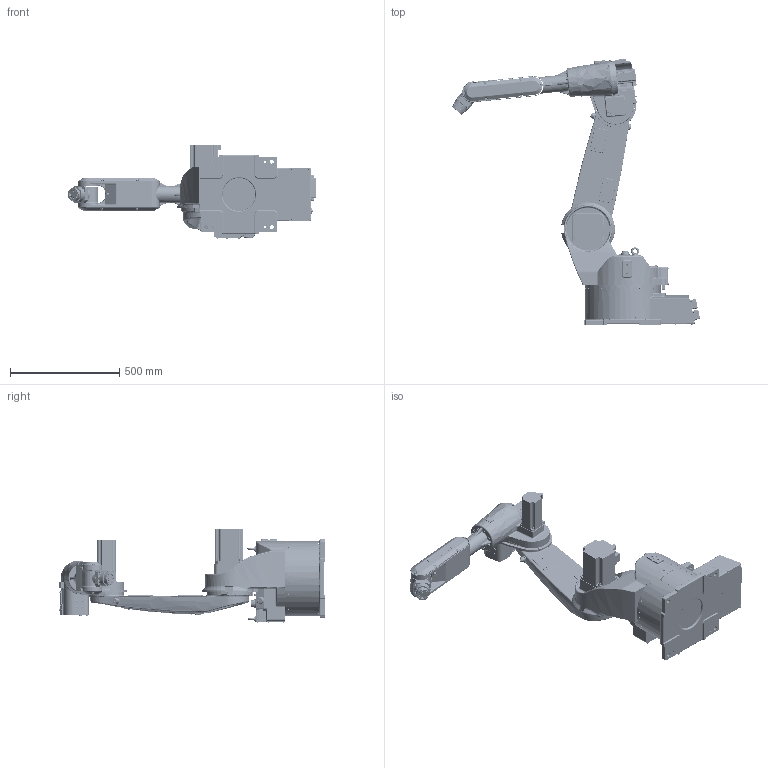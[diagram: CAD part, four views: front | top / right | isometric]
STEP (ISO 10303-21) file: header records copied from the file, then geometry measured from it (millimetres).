
FILE_DESCRIPTION (( 'STEP AP203' ), '1' );
FILE_NAME ('assembly.step', '2026-07-08T19:48:03', ( '' ), ( '' ), 'SwSTEP 2.0', 'SolidWorks 2023', '' );
FILE_SCHEMA (( 'CONFIG_CONTROL_DESIGN' ));
Length unit declared in the file: millimetre
Products named in the file (8): SR10C-06-00；A6; SR10C-05-00；A5; SR10C-02-00；A2; assembly; SR10C-01-00；A1; SR10C-04-00；A4; SR10C-07-00；A7; SR10C-03-00；A3
Assembly tree (7 placements, depth 2):
  assembly
    SR10C-01-00；A1
    SR10C-02-00；A2
    SR10C-03-00；A3
    SR10C-04-00；A4
    SR10C-05-00；A5
    SR10C-06-00；A6
    SR10C-07-00；A7
Bounding box: 1134.17 x 1218.26 x 431.78 mm (x, y, z)
Surface area: 2547808 mm2 (no closed solid volume)
Topology: 0 solids, 91 shells, 4750 faces, 13567 edges, 8865 vertices
Faces by surface type: plane 2055, cylinder 1576, bspline 493, torus 422, cone 150, sphere 54
Entity records: 194420 total; most frequent: CARTESIAN_POINT 73060, DIRECTION 24781, ORIENTED_EDGE 23830, EDGE_CURVE 13498, VERTEX_POINT 8865, AXIS2_PLACEMENT_3D 8603, VECTOR 7575, LINE 7575
